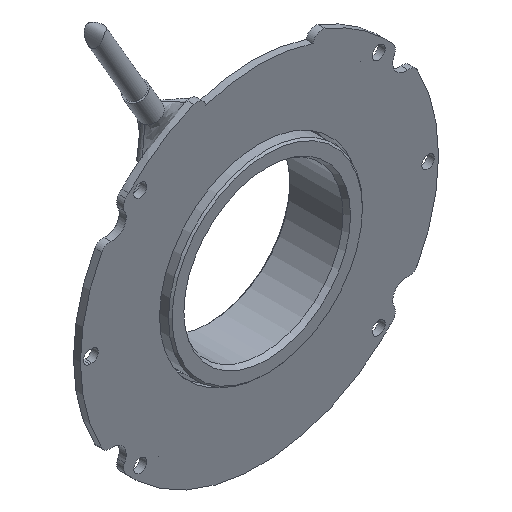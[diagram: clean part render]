
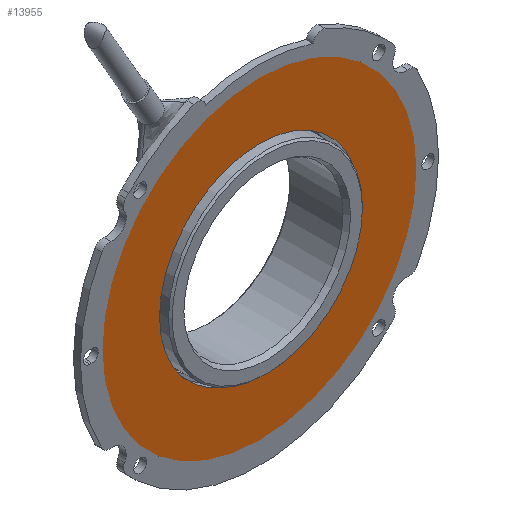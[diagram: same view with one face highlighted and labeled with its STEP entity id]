
A CAD part, isometric view. The second image highlights one B-rep face of the part: STEP entity #13955.
In plain terms, the highlighted planar face has unit normal (0, -1, 0) as drawn and (0, 0, -1) by its records, which use the part's own axes.
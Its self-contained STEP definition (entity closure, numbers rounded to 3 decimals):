
#1721=FACE_BOUND('',#5922,.T.);
#1843=PLANE('',#16619);
#5051=FACE_OUTER_BOUND('',#5921,.T.);
#5921=EDGE_LOOP('',(#10931));
#5922=EDGE_LOOP('',(#10932));
#6735=CIRCLE('',#16441,26.3);
#6820=CIRCLE('',#16614,16.75);
#7262=VERTEX_POINT('',#23019);
#7423=VERTEX_POINT('',#23507);
#8653=EDGE_CURVE('',#7262,#7262,#6735,.T.);
#8892=EDGE_CURVE('',#7423,#7423,#6820,.T.);
#10931=ORIENTED_EDGE('',*,*,#8653,.T.);
#10932=ORIENTED_EDGE('',*,*,#8892,.T.);
#13955=ADVANCED_FACE('',(#5051,#1721),#1843,.T.);
#16441=AXIS2_PLACEMENT_3D('',#23021,#18398,#18399);
#16614=AXIS2_PLACEMENT_3D('',#23509,#18898,#18899);
#16619=AXIS2_PLACEMENT_3D('',#23518,#18911,#18912);
#18398=DIRECTION('center_axis',(0.,0.,-1.));
#18399=DIRECTION('ref_axis',(1.,0.,0.));
#18898=DIRECTION('center_axis',(0.,0.,1.));
#18899=DIRECTION('ref_axis',(1.,0.,0.));
#18911=DIRECTION('center_axis',(0.,0.,-1.));
#18912=DIRECTION('ref_axis',(-1.,0.,0.));
#23019=CARTESIAN_POINT('',(-26.3,0.,0.));
#23021=CARTESIAN_POINT('Origin',(0.,0.,0.));
#23507=CARTESIAN_POINT('',(-16.75,0.,0.));
#23509=CARTESIAN_POINT('Origin',(0.,0.,0.));
#23518=CARTESIAN_POINT('Origin',(0.001,-0.128,0.));
